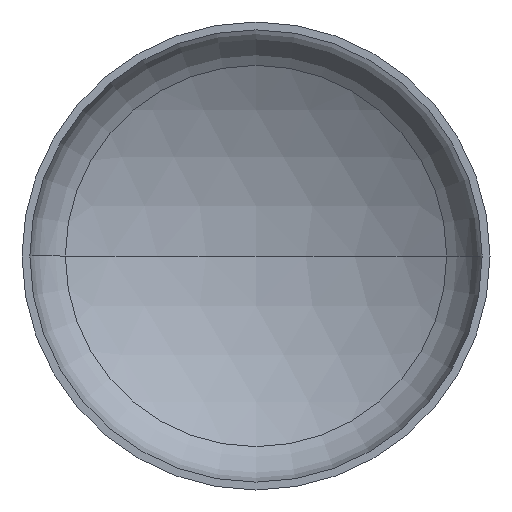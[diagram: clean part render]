
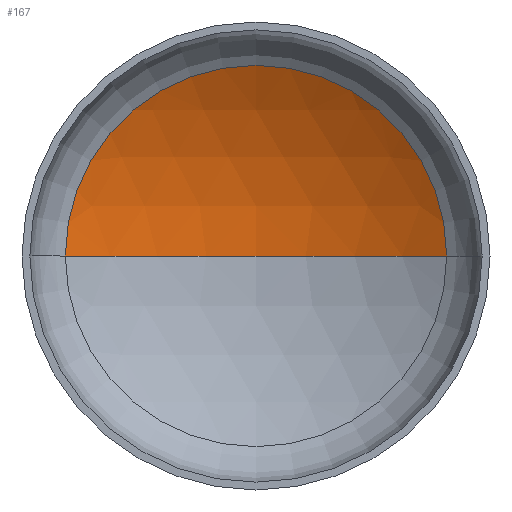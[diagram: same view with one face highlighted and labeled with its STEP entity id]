
A CAD part, front view. The second image highlights one B-rep face of the part: STEP entity #167.
In plain terms, the highlighted spherical face has radius 1760 mm.
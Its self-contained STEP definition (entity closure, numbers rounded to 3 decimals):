
#9 = ORIENTED_EDGE ( 'NONE', *, *, #358, .T. ) ;
#15 = AXIS2_PLACEMENT_3D ( 'NONE', #312, #168, #359 ) ;
#16 = AXIS2_PLACEMENT_3D ( 'NONE', #339, #190, #363 ) ;
#17 = EDGE_LOOP ( 'NONE', ( #72, #22, #9 ) ) ;
#22 = ORIENTED_EDGE ( 'NONE', *, *, #361, .T. ) ;
#42 = VERTEX_POINT ( 'NONE', #144 ) ;
#44 = AXIS2_PLACEMENT_3D ( 'NONE', #136, #137, #408 ) ;
#50 = AXIS2_PLACEMENT_3D ( 'NONE', #172, #202, #336 ) ;
#72 = ORIENTED_EDGE ( 'NONE', *, *, #347, .F. ) ;
#74 = VERTEX_POINT ( 'NONE', #268 ) ;
#107 = SPHERICAL_SURFACE ( 'NONE', #50, 1760. ) ;
#108 = VERTEX_POINT ( 'NONE', #274 ) ;
#136 = CARTESIAN_POINT ( 'NONE',  ( 0., -1102.158, 0. ) ) ;
#137 = DIRECTION ( 'NONE',  ( 0., 0., 1. ) ) ;
#144 = CARTESIAN_POINT ( 'NONE',  ( -896.113, 412.629, 0. ) ) ;
#167 = ADVANCED_FACE ( 'NONE', ( #227 ), #107, .F. ) ;
#168 = DIRECTION ( 'NONE',  ( 0., 0., -1. ) ) ;
#172 = CARTESIAN_POINT ( 'NONE',  ( 0., -1102.158, 0. ) ) ;
#190 = DIRECTION ( 'NONE',  ( 0., -1., 0. ) ) ;
#202 = DIRECTION ( 'NONE',  ( 0., 0., -1. ) ) ;
#227 = FACE_OUTER_BOUND ( 'NONE', #17, .T. ) ;
#268 = CARTESIAN_POINT ( 'NONE',  ( 896.113, 412.629, 0. ) ) ;
#274 = CARTESIAN_POINT ( 'NONE',  ( 0., 657.842, 0. ) ) ;
#312 = CARTESIAN_POINT ( 'NONE',  ( 0., -1102.158, 0. ) ) ;
#330 = CIRCLE ( 'NONE', #16, 896.113 ) ;
#335 = CIRCLE ( 'NONE', #15, 1760. ) ;
#336 = DIRECTION ( 'NONE',  ( -1., 0., 0. ) ) ;
#339 = CARTESIAN_POINT ( 'NONE',  ( 0., 412.629, 0. ) ) ;
#347 = EDGE_CURVE ( 'NONE', #108, #42, #396, .T. ) ;
#358 = EDGE_CURVE ( 'NONE', #74, #42, #330, .T. ) ;
#359 = DIRECTION ( 'NONE',  ( -1., 0., 0. ) ) ;
#361 = EDGE_CURVE ( 'NONE', #108, #74, #335, .T. ) ;
#363 = DIRECTION ( 'NONE',  ( 1., 0., 0. ) ) ;
#396 = CIRCLE ( 'NONE', #44, 1760. ) ;
#408 = DIRECTION ( 'NONE',  ( 1., 0., 0. ) ) ;
